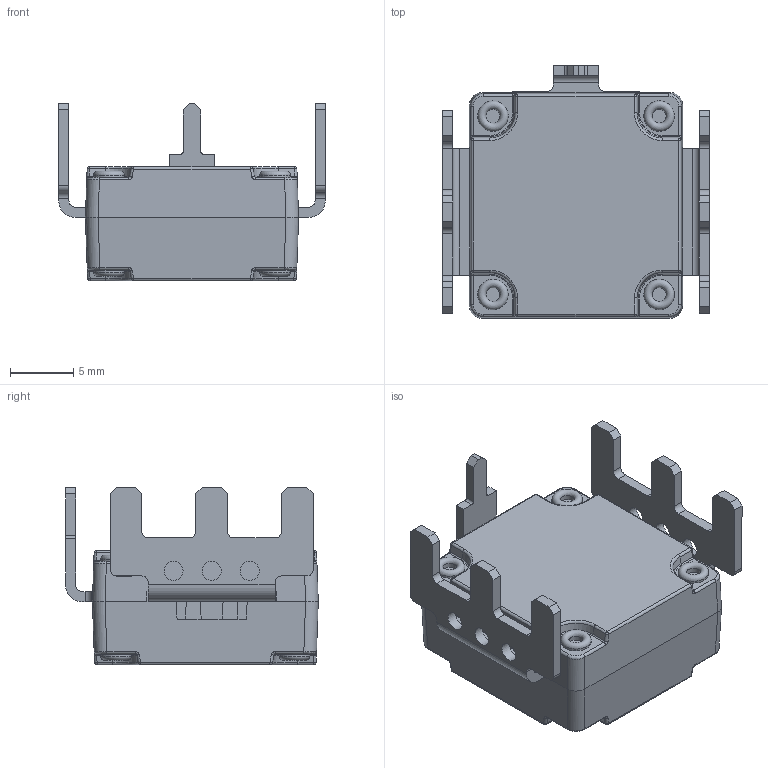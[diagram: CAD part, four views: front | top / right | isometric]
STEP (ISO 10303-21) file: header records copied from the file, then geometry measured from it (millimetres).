
FILE_DESCRIPTION(/* description */ ('Unknown'),/* implementation_level */ '2;1');
FILE_NAME(/* name */ 'SKT-CJ',/* time_stamp */ '2026-08-06T09:35:55+08:00',/* author */ ('Unknown'),/* organization */ ('Unknown'),/* preprocessor_version */ 'ST-DEVELOPER v16.7',/* originating_system */ 'Solid Edge',/* authorisation */ 'Unknown');
FILE_SCHEMA (('AUTOMOTIVE_DESIGN {1 0 10303 214 3 1 1}'));
Length unit declared in the file: millimetre
Products named in the file (1): SKT-CJ
Bounding box: 21 x 19.9 x 14 mm (x, y, z)
Volume: 2749.9 mm3; surface area: 1826.1 mm2
Topology: 1 solids, 10 shells, 419 faces, 1036 edges, 641 vertices
Faces by surface type: plane 182, cylinder 149, torus 32, bspline 24, cone 16, sphere 16
Full cylindrical faces by diameter (mm): 1.1 x8, 1.5 x14, 2 x8, 2.4 x8
Entity records: 15631 total; most frequent: CARTESIAN_POINT 3225, DIRECTION 1957, ORIENTED_EDGE 1880, EDGE_CURVE 940, AXIS2_PLACEMENT_3D 695, VERTEX_POINT 607, LINE 567, VECTOR 567
